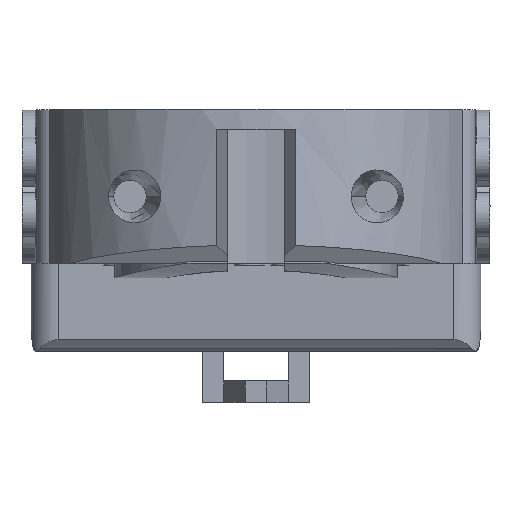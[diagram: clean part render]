
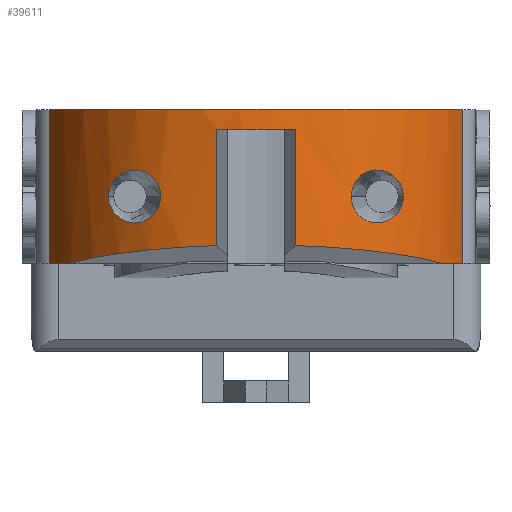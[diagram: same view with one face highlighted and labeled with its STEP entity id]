
A CAD part, top view. The second image highlights one B-rep face of the part: STEP entity #39611.
In plain terms, the highlighted cylindrical face has radius 12.15 mm (diameter 24.3 mm), a partial arc.
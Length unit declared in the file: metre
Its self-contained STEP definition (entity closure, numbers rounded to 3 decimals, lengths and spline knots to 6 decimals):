
#34996=CARTESIAN_POINT(' ',(-0.010279,0.,0.006479));
#34997=VERTEX_POINT(' ',#34996);
#35011=CARTESIAN_POINT(' ',(0.,0.,0.));
#35016=DIRECTION(' ',(0.,-1.,0.));
#35021=DIRECTION(' ',(-0.846,0.,0.533));
#35026=AXIS2_PLACEMENT_3D(' ',#35011,#35016,#35021);
#35031=CIRCLE('',#35026,0.01215);
#35036=CARTESIAN_POINT(' ',(-0.0115,0.,0.003921));
#35037=VERTEX_POINT(' ',#35036);
#35041=EDGE_CURVE(' ',#34997,#35037,#35031,.T.);
#35291=CARTESIAN_POINT(' ',(0.0115,0.,0.003921));
#35292=VERTEX_POINT(' ',#35291);
#35306=CARTESIAN_POINT(' ',(0.,0.,0.));
#35311=DIRECTION(' ',(0.,-1.,0.));
#35316=DIRECTION(' ',(0.947,0.,0.323));
#35321=AXIS2_PLACEMENT_3D(' ',#35306,#35311,#35316);
#35326=CIRCLE('',#35321,0.01215);
#35331=CARTESIAN_POINT(' ',(0.010279,0.,0.006479));
#35332=VERTEX_POINT(' ',#35331);
#35336=EDGE_CURVE(' ',#35292,#35332,#35326,.T.);
#38831=CARTESIAN_POINT(' ',(-0.002177,0.000965,0.011953));
#38832=VERTEX_POINT(' ',#38831);
#38846=CARTESIAN_POINT(' ',(0.000055,-0.001107,0.000199));
#38851=DIRECTION(' ',(0.,-0.985,0.174));
#38856=DIRECTION(' ',(-0.184,0.171,0.968));
#38861=AXIS2_PLACEMENT_3D(' ',#38846,#38851,#38856);
#38866=CIRCLE('',#38861,0.012143);
#38871=EDGE_CURVE(' ',#38832,#34997,#38866,.T.);
#38941=CARTESIAN_POINT(' ',(0.,0.008525,0.));
#38946=DIRECTION(' ',(0.,-1.,0.));
#38951=DIRECTION(' ',(0.947,0.,0.323));
#38956=AXIS2_PLACEMENT_3D(' ',#38941,#38946,#38951);
#38961=CYLINDRICAL_SURFACE(' ',#38956,0.01215);
#38966=ORIENTED_EDGE(' ',*,*,#38871,.F.);
#38971=CARTESIAN_POINT(' ',(-0.002177,0.000965,0.011953));
#38976=DIRECTION(' ',(0.,1.,0.));
#38981=VECTOR(' ',#38976,1.);
#38986=LINE('',#38971,#38981);
#38991=CARTESIAN_POINT(' ',(-0.002177,0.007425,0.011953));
#38992=VERTEX_POINT(' ',#38991);
#38996=EDGE_CURVE(' ',#38832,#38992,#38986,.T.);
#39001=ORIENTED_EDGE(' ',*,*,#38996,.T.);
#39006=CARTESIAN_POINT(' ',(0.,0.007425,0.));
#39011=DIRECTION(' ',(0.,-1.,-0.));
#39016=DIRECTION(' ',(0.179,0.,0.984));
#39021=AXIS2_PLACEMENT_3D(' ',#39006,#39011,#39016);
#39026=CIRCLE('',#39021,0.01215);
#39031=CARTESIAN_POINT(' ',(0.002177,0.007425,0.011953));
#39032=VERTEX_POINT(' ',#39031);
#39036=EDGE_CURVE(' ',#39032,#38992,#39026,.T.);
#39041=ORIENTED_EDGE(' ',*,*,#39036,.F.);
#39046=CARTESIAN_POINT(' ',(0.002177,0.007425,0.011953));
#39051=DIRECTION(' ',(0.,-1.,0.));
#39056=VECTOR(' ',#39051,1.);
#39061=LINE('',#39046,#39056);
#39066=CARTESIAN_POINT(' ',(0.002177,0.000965,0.011953));
#39067=VERTEX_POINT(' ',#39066);
#39071=EDGE_CURVE(' ',#39032,#39067,#39061,.T.);
#39076=ORIENTED_EDGE(' ',*,*,#39071,.T.);
#39081=CARTESIAN_POINT(' ',(-0.00006,-0.001108,0.000192));
#39086=DIRECTION(' ',(0.,-0.985,0.174));
#39091=DIRECTION(' ',(0.851,0.091,0.517));
#39096=AXIS2_PLACEMENT_3D(' ',#39081,#39086,#39091);
#39101=CIRCLE('',#39096,0.01215);
#39106=EDGE_CURVE(' ',#35332,#39067,#39101,.T.);
#39111=ORIENTED_EDGE(' ',*,*,#39106,.F.);
#39116=ORIENTED_EDGE(' ',*,*,#35336,.F.);
#39121=CARTESIAN_POINT(' ',(0.0115,0.008525,0.003921));
#39126=DIRECTION(' ',(0.,-1.,0.));
#39131=VECTOR(' ',#39126,1.);
#39136=LINE('',#39121,#39131);
#39141=CARTESIAN_POINT(' ',(0.0115,0.008525,0.003921));
#39142=VERTEX_POINT(' ',#39141);
#39146=EDGE_CURVE(' ',#39142,#35292,#39136,.T.);
#39151=ORIENTED_EDGE(' ',*,*,#39146,.F.);
#39156=CARTESIAN_POINT(' ',(0.,0.008525,0.));
#39161=DIRECTION(' ',(0.,-1.,-0.));
#39166=DIRECTION(' ',(0.947,0.,0.323));
#39171=AXIS2_PLACEMENT_3D(' ',#39156,#39161,#39166);
#39176=CIRCLE('',#39171,0.01215);
#39181=CARTESIAN_POINT(' ',(-0.0115,0.008525,0.003921));
#39182=VERTEX_POINT(' ',#39181);
#39186=EDGE_CURVE(' ',#39142,#39182,#39176,.T.);
#39191=ORIENTED_EDGE(' ',*,*,#39186,.T.);
#39196=CARTESIAN_POINT(' ',(-0.0115,0.008525,0.003921));
#39201=DIRECTION(' ',(0.,-1.,0.));
#39206=VECTOR(' ',#39201,1.);
#39211=LINE('',#39196,#39206);
#39216=EDGE_CURVE(' ',#39182,#35037,#39211,.T.);
#39221=ORIENTED_EDGE(' ',*,*,#39216,.T.);
#39226=ORIENTED_EDGE(' ',*,*,#35041,.F.);
#39231=EDGE_LOOP(' ',(#38966,#39001,#39041,#39076,#39111,#39116,#39151,#39191,#39221,#39226));
#39236=FACE_OUTER_BOUND(' ',#39231,.T.);
#39241=CARTESIAN_POINT(' ',(-0.005285,0.0037,0.01094));
#39246=CARTESIAN_POINT(' ',(-0.005285,0.003302,0.01094));
#39251=CARTESIAN_POINT(' ',(-0.00546,0.002902,0.010858));
#39256=CARTESIAN_POINT(' ',(-0.005923,0.002453,0.010611));
#39261=CARTESIAN_POINT(' ',(-0.006144,0.002325,0.010487));
#39266=CARTESIAN_POINT(' ',(-0.006593,0.002228,0.010207));
#39271=CARTESIAN_POINT(' ',(-0.006828,0.002223,0.010053));
#39276=CARTESIAN_POINT(' ',(-0.007258,0.002305,0.009749));
#39281=CARTESIAN_POINT(' ',(-0.007419,0.002391,0.009623));
#39286=CARTESIAN_POINT(' ',(-0.007887,0.002725,0.009251));
#39291=CARTESIAN_POINT(' ',(-0.008134,0.003111,0.009025));
#39296=CARTESIAN_POINT(' ',(-0.008186,0.003596,0.008979));
#39301=CARTESIAN_POINT(' ',(-0.008188,0.003648,0.008976));
#39306=CARTESIAN_POINT(' ',(-0.008188,0.0037,0.008976));
#39311=B_SPLINE_CURVE_WITH_KNOTS('',3,(#39241,#39246,#39251,#39256,#39261,#39266,#39271,#39276,#39281,#39286,#39291,#39296,#39301,#39306),.UNSPECIFIED.,.F.,.U.,(4,2,2,2,2,2,4),(0.,0.248832,0.421632,0.521632,0.665632,0.96423,1.),.UNSPECIFIED.);
#39316=CARTESIAN_POINT(' ',(-0.005285,0.0037,0.01094));
#39317=VERTEX_POINT(' ',#39316);
#39321=CARTESIAN_POINT(' ',(-0.008188,0.0037,0.008976));
#39322=VERTEX_POINT(' ',#39321);
#39326=EDGE_CURVE(' ',#39317,#39322,#39311,.T.);
#39331=ORIENTED_EDGE(' ',*,*,#39326,.T.);
#39336=CARTESIAN_POINT(' ',(-0.008188,0.0037,0.008976));
#39341=CARTESIAN_POINT(' ',(-0.008188,0.004025,0.008976));
#39346=CARTESIAN_POINT(' ',(-0.008073,0.004352,0.009083));
#39351=CARTESIAN_POINT(' ',(-0.007655,0.004897,0.00944));
#39356=CARTESIAN_POINT(' ',(-0.007346,0.005097,0.009691));
#39361=CARTESIAN_POINT(' ',(-0.006737,0.005183,0.010114));
#39366=CARTESIAN_POINT(' ',(-0.006505,0.005162,0.010264));
#39371=CARTESIAN_POINT(' ',(-0.006033,0.005024,0.010552));
#39376=CARTESIAN_POINT(' ',(-0.005791,0.004858,0.010683));
#39381=CARTESIAN_POINT(' ',(-0.005403,0.004364,0.010885));
#39386=CARTESIAN_POINT(' ',(-0.005285,0.004031,0.01094));
#39391=CARTESIAN_POINT(' ',(-0.005285,0.0037,0.01094));
#39396=B_SPLINE_CURVE_WITH_KNOTS('',3,(#39336,#39341,#39346,#39351,#39356,#39361,#39366,#39371,#39376,#39381,#39386,#39391),.UNSPECIFIED.,.F.,.U.,(4,2,2,2,2,4),(0.,0.20736,0.456192,0.576192,0.783552,1.),.UNSPECIFIED.);
#39401=EDGE_CURVE(' ',#39322,#39317,#39396,.T.);
#39406=ORIENTED_EDGE(' ',*,*,#39401,.T.);
#39411=EDGE_LOOP(' ',(#39331,#39406));
#39416=FACE_BOUND(' ',#39411,.T.);
#39421=CARTESIAN_POINT(' ',(0.008188,0.0037,0.008976));
#39426=CARTESIAN_POINT(' ',(0.008188,0.00328,0.008976));
#39431=CARTESIAN_POINT(' ',(0.008001,0.002885,0.009151));
#39436=CARTESIAN_POINT(' ',(0.00757,0.00248,0.009505));
#39441=CARTESIAN_POINT(' ',(0.007395,0.002371,0.009644));
#39446=CARTESIAN_POINT(' ',(0.007006,0.002246,0.009928));
#39451=CARTESIAN_POINT(' ',(0.006752,0.002213,0.010105));
#39456=CARTESIAN_POINT(' ',(0.006256,0.002285,0.01042));
#39461=CARTESIAN_POINT(' ',(0.006054,0.002381,0.010536));
#39466=CARTESIAN_POINT(' ',(0.005599,0.002725,0.010787));
#39471=CARTESIAN_POINT(' ',(0.005395,0.003041,0.010887));
#39476=CARTESIAN_POINT(' ',(0.005297,0.003485,0.010935));
#39481=CARTESIAN_POINT(' ',(0.005285,0.003592,0.01094));
#39486=CARTESIAN_POINT(' ',(0.005285,0.0037,0.01094));
#39491=B_SPLINE_CURVE_WITH_KNOTS('',3,(#39421,#39426,#39431,#39436,#39441,#39446,#39451,#39456,#39461,#39466,#39471,#39476,#39481,#39486),.UNSPECIFIED.,.F.,.U.,(4,2,2,2,2,2,4),(0.,0.298598,0.464486,0.584486,0.728486,0.935846,1.),.UNSPECIFIED.);
#39496=CARTESIAN_POINT(' ',(0.008188,0.0037,0.008976));
#39497=VERTEX_POINT(' ',#39496);
#39501=CARTESIAN_POINT(' ',(0.005285,0.0037,0.01094));
#39502=VERTEX_POINT(' ',#39501);
#39506=EDGE_CURVE(' ',#39497,#39502,#39491,.T.);
#39511=ORIENTED_EDGE(' ',*,*,#39506,.T.);
#39516=CARTESIAN_POINT(' ',(0.005285,0.0037,0.01094));
#39521=CARTESIAN_POINT(' ',(0.005285,0.00406,0.01094));
#39526=CARTESIAN_POINT(' ',(0.005426,0.004429,0.010875));
#39531=CARTESIAN_POINT(' ',(0.005871,0.004918,0.01064));
#39536=CARTESIAN_POINT(' ',(0.006113,0.00507,0.010507));
#39541=CARTESIAN_POINT(' ',(0.006599,0.005172,0.010203));
#39546=CARTESIAN_POINT(' ',(0.006801,0.005177,0.01007));
#39551=CARTESIAN_POINT(' ',(0.007252,0.005103,0.009755));
#39556=CARTESIAN_POINT(' ',(0.007465,0.004994,0.009589));
#39561=CARTESIAN_POINT(' ',(0.007933,0.004605,0.009209));
#39566=CARTESIAN_POINT(' ',(0.008153,0.004225,0.009008));
#39571=CARTESIAN_POINT(' ',(0.008187,0.003773,0.008977));
#39576=CARTESIAN_POINT(' ',(0.008188,0.003737,0.008976));
#39581=CARTESIAN_POINT(' ',(0.008188,0.0037,0.008976));
#39586=B_SPLINE_CURVE_WITH_KNOTS('',3,(#39516,#39521,#39526,#39531,#39536,#39541,#39546,#39551,#39556,#39561,#39566,#39571,#39576,#39581),.UNSPECIFIED.,.F.,.U.,(4,2,2,2,2,2,4),(0.,0.248832,0.456192,0.556192,0.728992,0.977824,1.),.UNSPECIFIED.);
#39591=EDGE_CURVE(' ',#39502,#39497,#39586,.T.);
#39596=ORIENTED_EDGE(' ',*,*,#39591,.T.);
#39601=EDGE_LOOP(' ',(#39511,#39596));
#39606=FACE_BOUND(' ',#39601,.T.);
#39611=ADVANCED_FACE('',(#39236,#39416,#39606),#38961,.T.);
